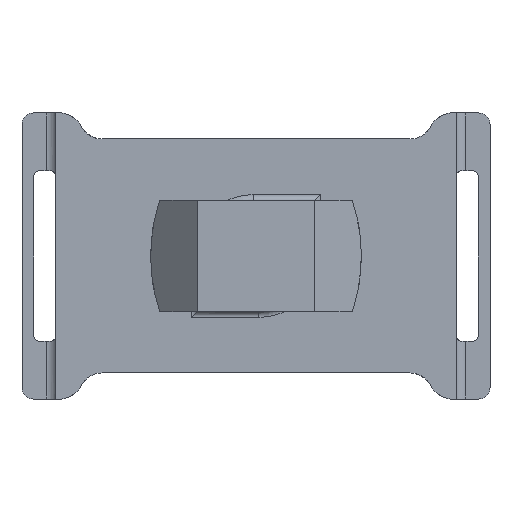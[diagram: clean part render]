
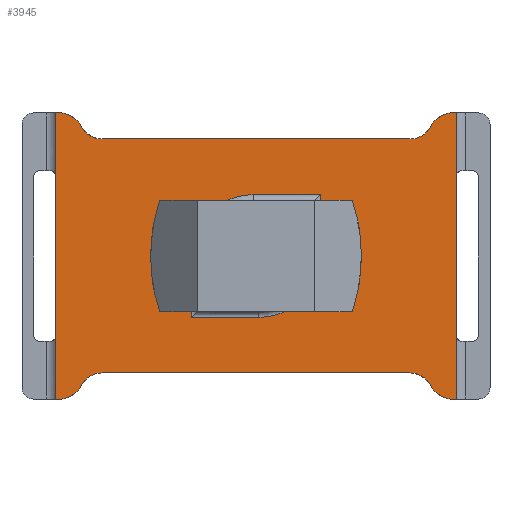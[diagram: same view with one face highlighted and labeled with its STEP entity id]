
A CAD part, front view. The second image highlights one B-rep face of the part: STEP entity #3945.
In plain terms, the highlighted planar face has unit normal (0, -1, 0).
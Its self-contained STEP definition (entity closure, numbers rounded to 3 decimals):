
#199=CIRCLE('',#4179,5.25);
#200=CIRCLE('',#4180,5.25);
#201=CIRCLE('',#4181,2.35);
#202=CIRCLE('',#4182,2.);
#203=CIRCLE('',#4183,2.);
#204=CIRCLE('',#4184,2.35);
#205=CIRCLE('',#4185,2.35);
#206=CIRCLE('',#4186,2.);
#207=CIRCLE('',#4187,2.);
#208=CIRCLE('',#4188,2.35);
#406=ORIENTED_EDGE('',*,*,#1652,.F.);
#407=ORIENTED_EDGE('',*,*,#1653,.T.);
#408=ORIENTED_EDGE('',*,*,#1654,.T.);
#409=ORIENTED_EDGE('',*,*,#1655,.F.);
#410=ORIENTED_EDGE('',*,*,#1648,.T.);
#411=ORIENTED_EDGE('',*,*,#1656,.F.);
#412=ORIENTED_EDGE('',*,*,#1657,.T.);
#413=ORIENTED_EDGE('',*,*,#1658,.F.);
#414=ORIENTED_EDGE('',*,*,#1659,.T.);
#415=ORIENTED_EDGE('',*,*,#1660,.F.);
#416=ORIENTED_EDGE('',*,*,#1661,.T.);
#417=ORIENTED_EDGE('',*,*,#1662,.F.);
#418=ORIENTED_EDGE('',*,*,#1663,.T.);
#419=ORIENTED_EDGE('',*,*,#1664,.F.);
#420=ORIENTED_EDGE('',*,*,#1665,.F.);
#421=ORIENTED_EDGE('',*,*,#1666,.F.);
#422=ORIENTED_EDGE('',*,*,#1667,.T.);
#423=ORIENTED_EDGE('',*,*,#1668,.F.);
#424=ORIENTED_EDGE('',*,*,#1669,.T.);
#425=ORIENTED_EDGE('',*,*,#1670,.F.);
#426=ORIENTED_EDGE('',*,*,#1671,.F.);
#427=ORIENTED_EDGE('',*,*,#1672,.T.);
#1648=EDGE_CURVE('',#2270,#2271,#2675,.T.);
#1652=EDGE_CURVE('',#2273,#2274,#2677,.T.);
#1653=EDGE_CURVE('',#2273,#2275,#2678,.T.);
#1654=EDGE_CURVE('',#2275,#2276,#199,.T.);
#1655=EDGE_CURVE('',#2270,#2276,#2679,.T.);
#1656=EDGE_CURVE('',#2274,#2271,#200,.T.);
#1657=EDGE_CURVE('',#2277,#2278,#2680,.T.);
#1658=EDGE_CURVE('',#2279,#2278,#201,.T.);
#1659=EDGE_CURVE('',#2279,#2280,#202,.T.);
#1660=EDGE_CURVE('',#2281,#2280,#2681,.T.);
#1661=EDGE_CURVE('',#2281,#2282,#203,.T.);
#1662=EDGE_CURVE('',#2283,#2282,#204,.T.);
#1663=EDGE_CURVE('',#2283,#2284,#2682,.T.);
#1664=EDGE_CURVE('',#2285,#2284,#2683,.T.);
#1665=EDGE_CURVE('',#2286,#2285,#2684,.T.);
#1666=EDGE_CURVE('',#2287,#2286,#205,.T.);
#1667=EDGE_CURVE('',#2287,#2288,#206,.T.);
#1668=EDGE_CURVE('',#2289,#2288,#2685,.T.);
#1669=EDGE_CURVE('',#2289,#2290,#207,.T.);
#1670=EDGE_CURVE('',#2291,#2290,#208,.T.);
#1671=EDGE_CURVE('',#2292,#2291,#2686,.T.);
#1672=EDGE_CURVE('',#2292,#2277,#2687,.T.);
#2270=VERTEX_POINT('',#5844);
#2271=VERTEX_POINT('',#5845);
#2273=VERTEX_POINT('',#5852);
#2274=VERTEX_POINT('',#5853);
#2275=VERTEX_POINT('',#5855);
#2276=VERTEX_POINT('',#5857);
#2277=VERTEX_POINT('',#5861);
#2278=VERTEX_POINT('',#5862);
#2279=VERTEX_POINT('',#5864);
#2280=VERTEX_POINT('',#5866);
#2281=VERTEX_POINT('',#5868);
#2282=VERTEX_POINT('',#5870);
#2283=VERTEX_POINT('',#5872);
#2284=VERTEX_POINT('',#5874);
#2285=VERTEX_POINT('',#5876);
#2286=VERTEX_POINT('',#5878);
#2287=VERTEX_POINT('',#5880);
#2288=VERTEX_POINT('',#5882);
#2289=VERTEX_POINT('',#5884);
#2290=VERTEX_POINT('',#5886);
#2291=VERTEX_POINT('',#5888);
#2292=VERTEX_POINT('',#5890);
#2675=LINE('',#5843,#3055);
#2677=LINE('',#5851,#3057);
#2678=LINE('',#5854,#3058);
#2679=LINE('',#5858,#3059);
#2680=LINE('',#5860,#3060);
#2681=LINE('',#5867,#3061);
#2682=LINE('',#5873,#3062);
#2683=LINE('',#5875,#3063);
#2684=LINE('',#5877,#3064);
#2685=LINE('',#5883,#3065);
#2686=LINE('',#5889,#3066);
#2687=LINE('',#5891,#3067);
#3055=VECTOR('',#4621,1000.);
#3057=VECTOR('',#4629,1000.);
#3058=VECTOR('',#4630,1000.);
#3059=VECTOR('',#4633,1000.);
#3060=VECTOR('',#4636,1000.);
#3061=VECTOR('',#4641,1000.);
#3062=VECTOR('',#4646,1000.);
#3063=VECTOR('',#4647,1000.);
#3064=VECTOR('',#4648,1000.);
#3065=VECTOR('',#4653,1000.);
#3066=VECTOR('',#4658,1000.);
#3067=VECTOR('',#4659,1000.);
#3424=EDGE_LOOP('',(#406,#407,#408,#409,#410,#411));
#3425=EDGE_LOOP('',(#412,#413,#414,#415,#416,#417,#418,#419,#420,#421,#422,
#423,#424,#425,#426,#427));
#3634=FACE_BOUND('',#3424,.T.);
#3635=FACE_BOUND('',#3425,.T.);
#3841=PLANE('',#4178);
#3945=ADVANCED_FACE('',(#3634,#3635),#3841,.F.);
#4178=AXIS2_PLACEMENT_3D('',#5850,#4627,#4628);
#4179=AXIS2_PLACEMENT_3D('',#5856,#4631,#4632);
#4180=AXIS2_PLACEMENT_3D('',#5859,#4634,#4635);
#4181=AXIS2_PLACEMENT_3D('',#5863,#4637,#4638);
#4182=AXIS2_PLACEMENT_3D('',#5865,#4639,#4640);
#4183=AXIS2_PLACEMENT_3D('',#5869,#4642,#4643);
#4184=AXIS2_PLACEMENT_3D('',#5871,#4644,#4645);
#4185=AXIS2_PLACEMENT_3D('',#5879,#4649,#4650);
#4186=AXIS2_PLACEMENT_3D('',#5881,#4651,#4652);
#4187=AXIS2_PLACEMENT_3D('',#5885,#4654,#4655);
#4188=AXIS2_PLACEMENT_3D('',#5887,#4656,#4657);
#4621=DIRECTION('',(0.,0.,-1.));
#4627=DIRECTION('',(0.,1.,0.));
#4628=DIRECTION('',(0.,0.,1.));
#4629=DIRECTION('',(1.,0.,0.));
#4630=DIRECTION('',(0.,0.,1.));
#4631=DIRECTION('',(0.,1.,0.));
#4632=DIRECTION('',(0.,0.,1.));
#4633=DIRECTION('',(-1.,0.,0.));
#4634=DIRECTION('',(0.,-1.,0.));
#4635=DIRECTION('',(0.,0.,-1.));
#4636=DIRECTION('',(1.,0.,0.));
#4637=DIRECTION('',(0.,1.,0.));
#4638=DIRECTION('',(1.,0.,0.));
#4639=DIRECTION('',(0.,1.,0.));
#4640=DIRECTION('',(1.,0.,0.));
#4641=DIRECTION('',(-1.,0.,0.));
#4642=DIRECTION('',(0.,1.,0.));
#4643=DIRECTION('',(1.,0.,0.));
#4644=DIRECTION('',(0.,1.,0.));
#4645=DIRECTION('',(1.,0.,0.));
#4646=DIRECTION('',(1.,0.,0.));
#4647=DIRECTION('',(0.,0.,-1.));
#4648=DIRECTION('',(1.,0.,0.));
#4649=DIRECTION('',(0.,1.,0.));
#4650=DIRECTION('',(1.,0.,0.));
#4651=DIRECTION('',(0.,1.,0.));
#4652=DIRECTION('',(1.,0.,0.));
#4653=DIRECTION('',(1.,0.,0.));
#4654=DIRECTION('',(0.,1.,0.));
#4655=DIRECTION('',(1.,0.,0.));
#4656=DIRECTION('',(0.,1.,0.));
#4657=DIRECTION('',(1.,0.,0.));
#4658=DIRECTION('',(1.,0.,0.));
#4659=DIRECTION('',(0.,0.,-1.));
#5843=CARTESIAN_POINT('',(5.5,0.,6.));
#5844=CARTESIAN_POINT('',(5.5,0.,5.25));
#5845=CARTESIAN_POINT('',(5.5,0.,0.));
#5850=CARTESIAN_POINT('',(-17.096,0.,12.246));
#5851=CARTESIAN_POINT('',(-5.,0.,-5.25));
#5852=CARTESIAN_POINT('',(-5.5,0.,-5.25));
#5853=CARTESIAN_POINT('',(0.25,0.,-5.25));
#5854=CARTESIAN_POINT('',(-5.5,0.,-5.25));
#5855=CARTESIAN_POINT('',(-5.5,0.,0.));
#5856=CARTESIAN_POINT('',(-0.25,0.,0.));
#5857=CARTESIAN_POINT('',(-0.25,0.,5.25));
#5858=CARTESIAN_POINT('',(5.,0.,5.25));
#5859=CARTESIAN_POINT('',(0.25,0.,0.));
#5860=CARTESIAN_POINT('',(-17.096,0.,-12.246));
#5861=CARTESIAN_POINT('',(-17.096,0.,-12.246));
#5862=CARTESIAN_POINT('',(-16.7,0.,-12.246));
#5863=CARTESIAN_POINT('',(-16.962,0.,-9.911));
#5864=CARTESIAN_POINT('',(-14.834,0.,-10.909));
#5865=CARTESIAN_POINT('',(-13.158,0.,-12.));
#5866=CARTESIAN_POINT('',(-13.158,0.,-10.));
#5867=CARTESIAN_POINT('',(13.158,0.,-10.));
#5868=CARTESIAN_POINT('',(13.158,0.,-10.));
#5869=CARTESIAN_POINT('',(13.158,0.,-12.));
#5870=CARTESIAN_POINT('',(14.834,0.,-10.909));
#5871=CARTESIAN_POINT('',(16.962,0.,-9.91));
#5872=CARTESIAN_POINT('',(16.7,0.,-12.246));
#5873=CARTESIAN_POINT('',(-17.096,0.,-12.246));
#5874=CARTESIAN_POINT('',(17.096,0.,-12.246));
#5875=CARTESIAN_POINT('',(17.096,0.,12.246));
#5876=CARTESIAN_POINT('',(17.096,0.,12.246));
#5877=CARTESIAN_POINT('',(-17.096,0.,12.246));
#5878=CARTESIAN_POINT('',(16.7,0.,12.246));
#5879=CARTESIAN_POINT('',(16.962,0.,9.911));
#5880=CARTESIAN_POINT('',(14.834,0.,10.909));
#5881=CARTESIAN_POINT('',(13.158,0.,12.));
#5882=CARTESIAN_POINT('',(13.158,0.,10.));
#5883=CARTESIAN_POINT('',(-13.158,0.,10.));
#5884=CARTESIAN_POINT('',(-13.158,0.,10.));
#5885=CARTESIAN_POINT('',(-13.158,0.,12.));
#5886=CARTESIAN_POINT('',(-14.834,0.,10.909));
#5887=CARTESIAN_POINT('',(-16.962,0.,9.911));
#5888=CARTESIAN_POINT('',(-16.7,0.,12.246));
#5889=CARTESIAN_POINT('',(-17.096,0.,12.246));
#5890=CARTESIAN_POINT('',(-17.096,0.,12.246));
#5891=CARTESIAN_POINT('',(-17.096,0.,12.246));
